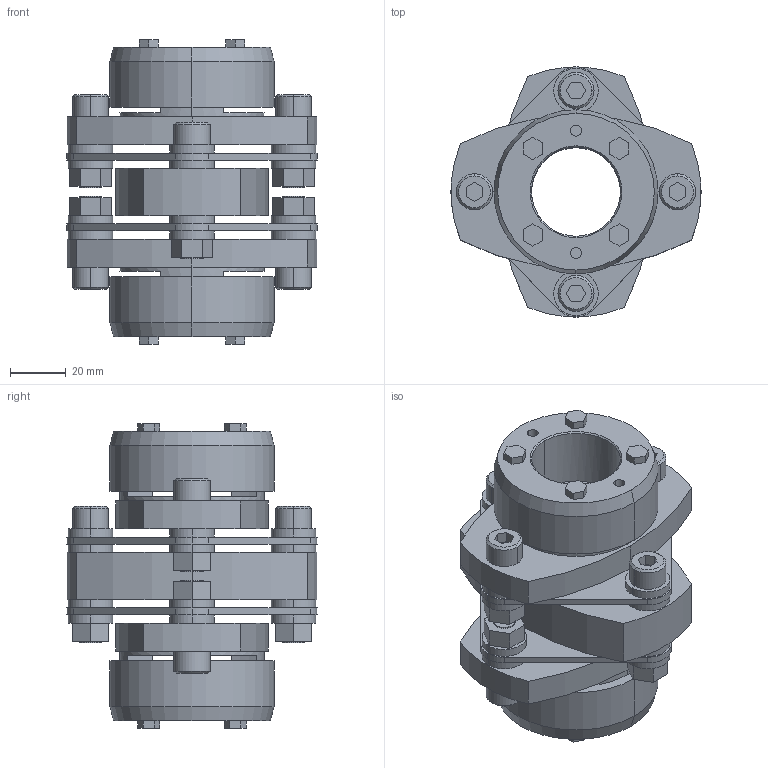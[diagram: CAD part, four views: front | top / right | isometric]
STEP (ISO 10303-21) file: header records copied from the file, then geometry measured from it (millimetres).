
FILE_DESCRIPTION((''),'2;1');
FILE_NAME('LCD-90T7-32×32.stp','2011-09-12T10:08:03',(''),(''),'AutoCAD STEP 2000i','AutoCAD 2000i',', , ');
FILE_SCHEMA(('CONFIG_CONTROL_DESIGN'));
Length unit declared in the file: millimetre
Products named in the file (12): LCD-90T7-32×32; 忣兜1; LC90T7-T032-1; LC90T7-T032; LC90T7-T035; LC90T7-T030-1; LC90T7-T030; LC90T7-T025-1; LC90T7-T025; LC90T7-T019-1; LC90T7-T019; LCD90-ITA
Assembly tree (11 placements, depth 2):
  LCD-90T7-32×32
    忣兜1
    LC90T7-T032-1
    LC90T7-T032
    LC90T7-T035
    LC90T7-T030-1
    LC90T7-T030
    LC90T7-T025-1
    LC90T7-T025
    LC90T7-T019-1
    LC90T7-T019
    LCD90-ITA
Bounding box: 90 x 89.94 x 109.6 mm (x, y, z)
Volume: 247174.6 mm3; surface area: 72181.5 mm2
Topology: 1 solids, 1 shells, 334 faces, 816 edges, 536 vertices
Faces by surface type: plane 190, cylinder 120, cone 24
Entity records: 10149 total; most frequent: DIRECTION 1788, CARTESIAN_POINT 1698, ORIENTED_EDGE 1632, EDGE_CURVE 816, AXIS2_PLACEMENT_3D 626, VERTEX_POINT 536, VECTOR 536, LINE 536
